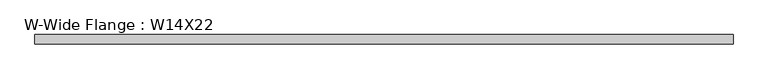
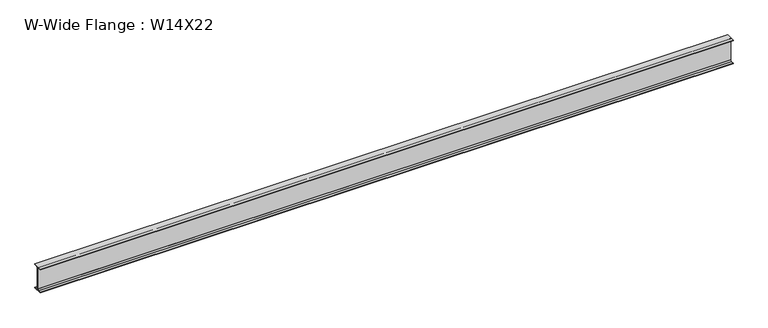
"""IFC4 building model written with IfcOpenShell, lengths in millimetres: beam geometry, W-Wide Flange : W14X22."""

from ifc_helpers import new_model, si_unit, point, frame, frame_2d, origin, place, context, project, spatial, polyline, circle_curve, trimmed, segment, composite_curve, outline, extrude, source, transform, mapped, element, save


def w_wide_flange_w14x22_9bef81b0(model_context):
    return source(origin(), model_context, "Body", "SweptSolid", [
        extrude(outline(composite_curve([segment(polyline([(63.5, -165.481), (63.5, -173.99), (-63.5, -173.99), (-63.5, -165.481), (-21.3995, -165.481)]), True, "CONTINUOUS"), segment(trimmed(circle_curve(frame_2d((-21.3995, -147.0025)), 18.4785), [point((-21.3995, -165.481))], [point((-2.921, -147.0025))], True, "CARTESIAN"), True, "CONTINUOUS"), segment(polyline([(-2.921, -147.0025), (-2.921, 147.0025)]), True, "CONTINUOUS"), segment(trimmed(circle_curve(frame_2d((-21.3995, 147.0025)), 18.4785), [point((-2.921, 147.0025))], [point((-21.3995, 165.481))], True, "CARTESIAN"), True, "CONTINUOUS"), segment(polyline([(-21.3995, 165.481), (-63.5, 165.481), (-63.5, 173.99), (63.5, 173.99), (63.5, 165.481), (21.3995, 165.481)]), True, "CONTINUOUS"), segment(trimmed(circle_curve(frame_2d((21.3995, 147.0025)), 18.4785), [point((21.3995, 165.481))], [point((2.921, 147.0025))], True, "CARTESIAN"), True, "CONTINUOUS"), segment(polyline([(2.921, 147.0025), (2.921, -147.0025)]), True, "CONTINUOUS"), segment(trimmed(circle_curve(frame_2d((21.3995, -147.0025)), 18.4785), [point((2.921, -147.0025))], [point((21.3995, -165.481))], True, "CARTESIAN"), True, "CONTINUOUS"), segment(polyline([(21.3995, -165.481), (63.5, -165.481)]), True, "CONTINUOUS")], self_intersect=False)), frame((-4799.838, 0.0, 0.0), z_axis=(1.0, 0.0, 0.0), x_axis=(0.0, 1.0, 0.0)), (0.0, 0.0, 1.0), 9594.088),
    ])


if __name__ == "__main__":
    model = new_model("IFC4")
    model_context = context("Model", 3, world=origin())
    ifc_project = project(units=[si_unit("LENGTHUNIT", "METRE", prefix="MILLI")], contexts=[model_context])
    site = spatial("IfcSite", under=ifc_project)
    building = spatial("IfcBuilding", under=site)
    placement = place(None, origin())
    w_wide_flange_w14x22_shape = w_wide_flange_w14x22_9bef81b0(model_context)
    element("IfcBeam", 1, ObjectType="W-Wide Flange : W14X22", at=placement, inside=building, context=model_context, shape_type="MappedRepresentation", body=[
        mapped(w_wide_flange_w14x22_shape, transform((0.0, 0.0, 0.0), x_axis=(1.0, 0.0, 0.0), y_axis=(0.0, 1.0, 0.0), z_axis=(0.0, 0.0, 1.0))),
    ])
    save(model, "model.ifc")
